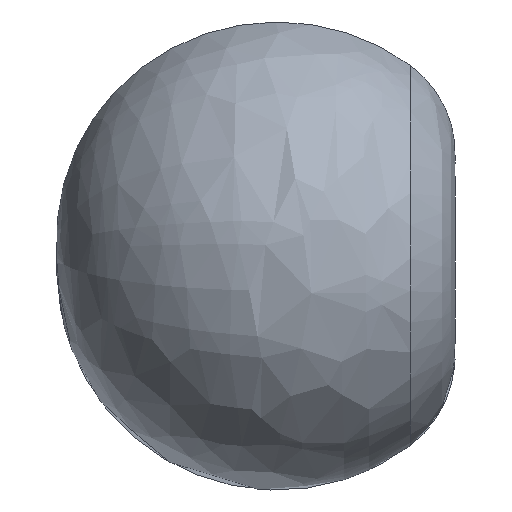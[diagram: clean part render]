
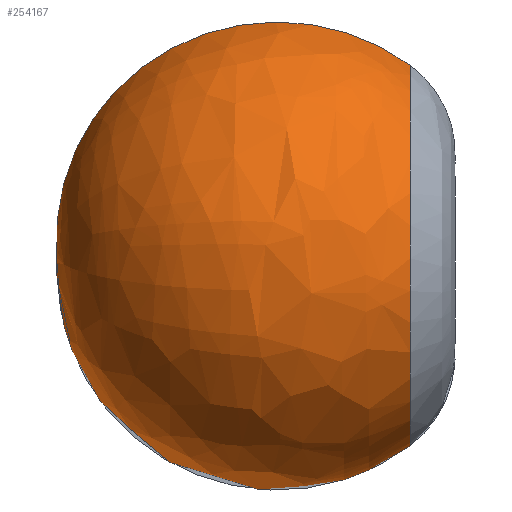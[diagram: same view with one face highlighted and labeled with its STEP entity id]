
A CAD part, left-side view. The second image highlights one B-rep face of the part: STEP entity #254167.
In plain terms, the highlighted free-form (B-spline) face has degree [3, 3] with [7, 4] control points.
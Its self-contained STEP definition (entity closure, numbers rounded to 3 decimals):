
#254019=CARTESIAN_POINT('',(-11.81,379.001,
51.154));
#254020=DIRECTION('',(-0.974,0.,-0.225));
#254021=DIRECTION('',(-0.18,-0.602,0.778));
#254022=AXIS2_PLACEMENT_3D('',#254019,#254020,#254021);
#254047=CARTESIAN_POINT('',(0.,-41.204,0.));
#254048=DIRECTION('',(0.,-1.,0.));
#254049=DIRECTION('',(-0.225,0.,0.974));
#254050=AXIS2_PLACEMENT_3D('',#254047,#254048,#254049);
#254067=CARTESIAN_POINT('',(11.81,379.001,
51.154));
#254068=DIRECTION('',(-0.974,0.,0.225));
#254069=DIRECTION('',(0.18,-0.602,0.778));
#254070=AXIS2_PLACEMENT_3D('',#254067,#254068,#254069);
#254091=CARTESIAN_POINT('',(-137.25,-41.204,
594.494));
#254092=CARTESIAN_POINT('',(0.,1075.255,
0.));
#254093=VERTEX_POINT('',#254091);
#254094=VERTEX_POINT('',#254092);
#254103=CARTESIAN_POINT('',(137.25,-41.204,
594.494));
#254104=VERTEX_POINT('',#254103);
#254131=CARTESIAN_POINT('',(0.,1075.255,0.));
#254132=CARTESIAN_POINT('',(-79.144,1129.467,
714.593));
#254133=CARTESIAN_POINT('',(-115.6,489.019,
1043.749));
#254134=CARTESIAN_POINT('',(-64.98,-66.314,
586.704));
#254135=CARTESIAN_POINT('',(0.,1075.255,
0.));
#254136=CARTESIAN_POINT('',(-1364.454,1129.467,
572.24));
#254137=CARTESIAN_POINT('',(-1992.948,489.019,
835.824));
#254138=CARTESIAN_POINT('',(-1120.261,-66.314,
469.827));
#254139=CARTESIAN_POINT('',(0.,1075.255,
0.));
#254140=CARTESIAN_POINT('',(-1293.169,1129.467,
-718.963));
#254141=CARTESIAN_POINT('',(-1888.828,489.019,
-1050.131));
#254142=CARTESIAN_POINT('',(-1061.733,-66.314,
-590.292));
#254143=CARTESIAN_POINT('',(0.,1075.255,0.));
#254144=CARTESIAN_POINT('',(0.,1129.467,
-718.963));
#254145=CARTESIAN_POINT('',(0.,489.019,
-1050.131));
#254146=CARTESIAN_POINT('',(0.,-66.314,
-590.292));
#254147=CARTESIAN_POINT('',(0.,1075.255,
0.));
#254148=CARTESIAN_POINT('',(1293.169,1129.467,
-718.963));
#254149=CARTESIAN_POINT('',(1888.828,489.019,
-1050.131));
#254150=CARTESIAN_POINT('',(1061.733,-66.314,
-590.292));
#254151=CARTESIAN_POINT('',(0.,1075.255,
0.));
#254152=CARTESIAN_POINT('',(1364.454,1129.467,
572.24));
#254153=CARTESIAN_POINT('',(1992.948,489.019,
835.824));
#254154=CARTESIAN_POINT('',(1120.261,-66.314,
469.827));
#254155=CARTESIAN_POINT('',(0.,1075.255,0.));
#254156=CARTESIAN_POINT('',(79.144,1129.467,
714.593));
#254157=CARTESIAN_POINT('',(115.6,489.019,
1043.749));
#254158=CARTESIAN_POINT('',(64.98,-66.314,
586.704));
#254159=(BOUNDED_SURFACE()B_SPLINE_SURFACE(3,3,((#254131,#254132,#254133,
#254134),(#254135,#254136,#254137,#254138),(#254139,#254140,#254141,#254142),(
#254143,#254144,#254145,#254146),(#254147,#254148,#254149,#254150),(#254151,
#254152,#254153,#254154),(#254155,#254156,#254157,#254158)),.UNSPECIFIED.,.F.,
.F.,.F.)B_SPLINE_SURFACE_WITH_KNOTS((4,3,4),(4,4),(0.,1.,2.),(0.,1.),
.UNSPECIFIED.)GEOMETRIC_REPRESENTATION_ITEM()RATIONAL_B_SPLINE_SURFACE(((
2.725,1.619,1.619,2.725),(
1.008,0.599,0.599,1.008),(
1.008,0.599,0.599,1.008),(
2.725,1.619,1.619,2.725),(
1.008,0.599,0.599,1.008),(
1.008,0.599,0.599,1.008),(
2.725,1.619,1.619,2.725)))REPRESENTATION_ITEM('')SURFACE());
#254160=ORIENTED_EDGE('',*,*,#254116,.F.);
#254162=ORIENTED_EDGE('',*,*,#254161,.T.);
#254164=ORIENTED_EDGE('',*,*,#254163,.T.);
#254165=EDGE_LOOP('',(#254160,#254162,#254164));
#254166=FACE_OUTER_BOUND('',#254165,.F.);
#254167=ADVANCED_FACE('',(#254166),#254159,.T.);
#254023=CIRCLE('',#254022,698.23);
#254051=CIRCLE('',#254050,610.131);
#254071=CIRCLE('',#254070,698.23);
#254116=EDGE_CURVE('',#254093,#254094,#254023,.T.);
#254161=EDGE_CURVE('',#254093,#254104,#254051,.T.);
#254163=EDGE_CURVE('',#254104,#254094,#254071,.T.);
